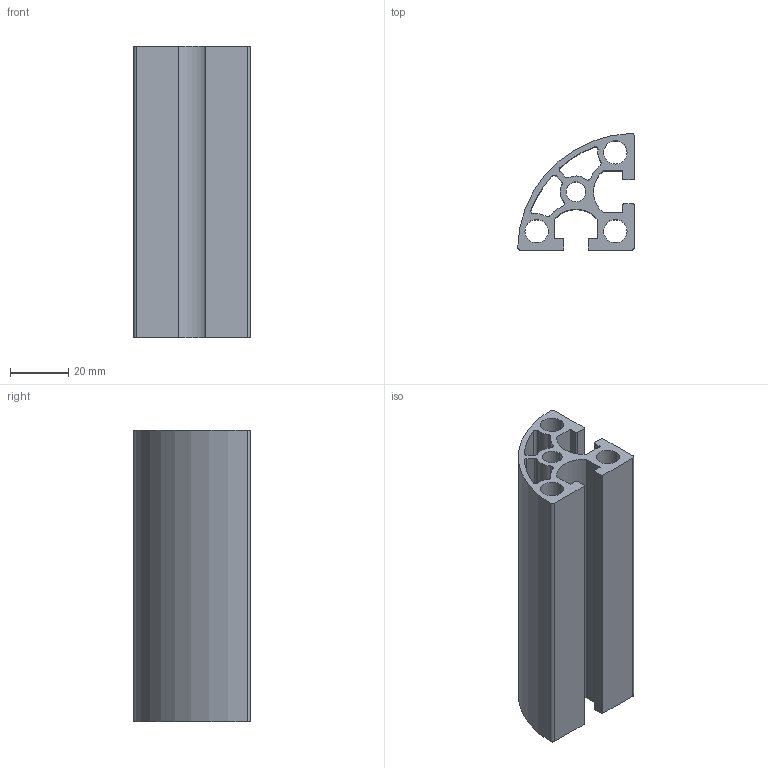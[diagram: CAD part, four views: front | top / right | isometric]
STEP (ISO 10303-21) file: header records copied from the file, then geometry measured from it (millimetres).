
FILE_DESCRIPTION (( 'STEP AP203' ), '1' );
FILE_NAME ('WSR4040-8.STEP', '2024-02-19T03:55:34', ( '' ), ( '' ), 'SwSTEP 2.0', 'SolidWorks 2022', '' );
FILE_SCHEMA (( 'CONFIG_CONTROL_DESIGN' ));
Length unit declared in the file: millimetre
Products named in the file (1): WSR4040-8
Bounding box: 39.99 x 39.99 x 100 mm (x, y, z)
Volume: 54841.3 mm3; surface area: 40020.5 mm2
Topology: 1 solids, 1 shells, 64 faces, 186 edges, 124 vertices
Faces by surface type: cylinder 44, plane 20
Entity records: 2259 total; most frequent: DIRECTION 404, CARTESIAN_POINT 375, ORIENTED_EDGE 372, EDGE_CURVE 186, AXIS2_PLACEMENT_3D 153, VERTEX_POINT 124, LINE 98, VECTOR 98
